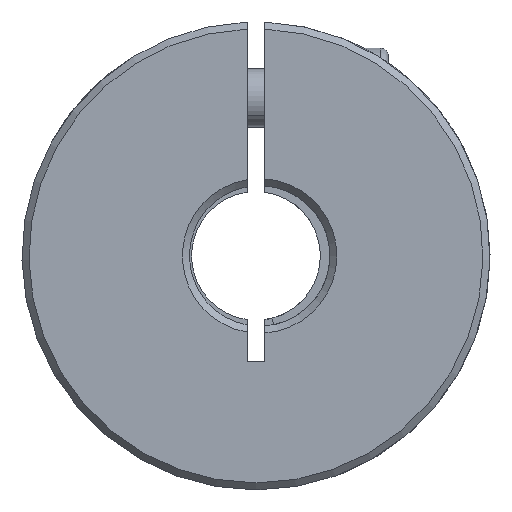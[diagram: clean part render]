
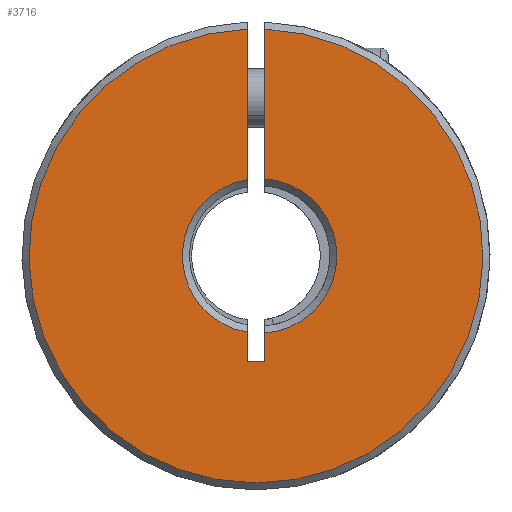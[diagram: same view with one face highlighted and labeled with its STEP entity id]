
A CAD part, front view. The second image highlights one B-rep face of the part: STEP entity #3716.
In plain terms, the highlighted planar face has unit normal (0, -1, 0).
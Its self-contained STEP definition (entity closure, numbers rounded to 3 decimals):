
#205 = EDGE_CURVE ( 'NONE', #266, #4046, #4263, .T. ) ;
#257 = EDGE_CURVE ( 'NONE', #1948, #3038, #2669, .T. ) ;
#266 = VERTEX_POINT ( 'NONE', #2311 ) ;
#382 = ORIENTED_EDGE ( 'NONE', *, *, #2302, .T. ) ;
#412 = LINE ( 'NONE', #501, #2597 ) ;
#415 = DIRECTION ( 'NONE',  ( 0., 0., 1. ) ) ;
#501 = CARTESIAN_POINT ( 'NONE',  ( -0.75, -30., -9. ) ) ;
#590 = FACE_OUTER_BOUND ( 'NONE', #5667, .T. ) ;
#785 = VECTOR ( 'NONE', #1417, 1000. ) ;
#815 = CARTESIAN_POINT ( 'NONE',  ( -0.75, -30., -9. ) ) ;
#845 = LINE ( 'NONE', #3131, #4759 ) ;
#874 = DIRECTION ( 'NONE',  ( 0., 1., 0. ) ) ;
#883 = CARTESIAN_POINT ( 'NONE',  ( 0.314, -30., 0. ) ) ;
#898 = DIRECTION ( 'NONE',  ( 0., 0., 1. ) ) ;
#951 = CARTESIAN_POINT ( 'NONE',  ( 0.75, -30., 6.586 ) ) ;
#1417 = DIRECTION ( 'NONE',  ( 0., 0., -1. ) ) ;
#1510 = VECTOR ( 'NONE', #1714, 1000. ) ;
#1591 = VERTEX_POINT ( 'NONE', #3938 ) ;
#1714 = DIRECTION ( 'NONE',  ( 0., 0., 1. ) ) ;
#1717 = AXIS2_PLACEMENT_3D ( 'NONE', #883, #1729, #1786 ) ;
#1729 = DIRECTION ( 'NONE',  ( 0., 1., 0. ) ) ;
#1786 = DIRECTION ( 'NONE',  ( 0., 0., 1. ) ) ;
#1806 = CARTESIAN_POINT ( 'NONE',  ( 0.75, -30., -9. ) ) ;
#1830 = CARTESIAN_POINT ( 'NONE',  ( 0., -30., 0. ) ) ;
#1948 = VERTEX_POINT ( 'NONE', #4486 ) ;
#2055 = DIRECTION ( 'NONE',  ( 0., 0., 1. ) ) ;
#2198 = AXIS2_PLACEMENT_3D ( 'NONE', #5791, #4334, #2055 ) ;
#2261 = EDGE_CURVE ( 'NONE', #3038, #4646, #2382, .T. ) ;
#2302 = EDGE_CURVE ( 'NONE', #1591, #2853, #3784, .T. ) ;
#2311 = CARTESIAN_POINT ( 'NONE',  ( -0.75, -30., -6.514 ) ) ;
#2326 = ORIENTED_EDGE ( 'NONE', *, *, #2448, .T. ) ;
#2353 = CARTESIAN_POINT ( 'NONE',  ( 0.75, -30., -9. ) ) ;
#2371 = ORIENTED_EDGE ( 'NONE', *, *, #2261, .T. ) ;
#2382 = LINE ( 'NONE', #2353, #4405 ) ;
#2448 = EDGE_CURVE ( 'NONE', #4646, #1591, #5143, .T. ) ;
#2597 = VECTOR ( 'NONE', #4126, 1000. ) ;
#2669 = CIRCLE ( 'NONE', #3463, 19.4 ) ;
#2853 = VERTEX_POINT ( 'NONE', #1806 ) ;
#3038 = VERTEX_POINT ( 'NONE', #3460 ) ;
#3131 = CARTESIAN_POINT ( 'NONE',  ( -0.75, -30., -9. ) ) ;
#3229 = EDGE_CURVE ( 'NONE', #5857, #266, #3649, .T. ) ;
#3248 = CARTESIAN_POINT ( 'NONE',  ( 0.314, -30., 0. ) ) ;
#3460 = CARTESIAN_POINT ( 'NONE',  ( 0.75, -30., 19.385 ) ) ;
#3463 = AXIS2_PLACEMENT_3D ( 'NONE', #1830, #4643, #415 ) ;
#3599 = DIRECTION ( 'NONE',  ( 0., 0., 1. ) ) ;
#3626 = ORIENTED_EDGE ( 'NONE', *, *, #3229, .T. ) ;
#3649 = LINE ( 'NONE', #815, #1510 ) ;
#3716 = ADVANCED_FACE ( 'NONE', ( #590 ), #4892, .F. ) ;
#3784 = LINE ( 'NONE', #5615, #785 ) ;
#3814 = ORIENTED_EDGE ( 'NONE', *, *, #205, .T. ) ;
#3856 = CARTESIAN_POINT ( 'NONE',  ( -0.75, -30., -9. ) ) ;
#3938 = CARTESIAN_POINT ( 'NONE',  ( 0.75, -30., -6.586 ) ) ;
#4035 = ORIENTED_EDGE ( 'NONE', *, *, #4241, .T. ) ;
#4046 = VERTEX_POINT ( 'NONE', #5818 ) ;
#4070 = ORIENTED_EDGE ( 'NONE', *, *, #257, .T. ) ;
#4126 = DIRECTION ( 'NONE',  ( -1., 0., 0. ) ) ;
#4241 = EDGE_CURVE ( 'NONE', #4046, #1948, #845, .T. ) ;
#4263 = CIRCLE ( 'NONE', #5043, 6.6 ) ;
#4334 = DIRECTION ( 'NONE',  ( 0., 1., 0. ) ) ;
#4355 = DIRECTION ( 'NONE',  ( 0., 0., -1. ) ) ;
#4405 = VECTOR ( 'NONE', #4355, 1000. ) ;
#4486 = CARTESIAN_POINT ( 'NONE',  ( -0.75, -30., 19.385 ) ) ;
#4629 = EDGE_CURVE ( 'NONE', #2853, #5857, #412, .T. ) ;
#4643 = DIRECTION ( 'NONE',  ( 0., -1., 0. ) ) ;
#4646 = VERTEX_POINT ( 'NONE', #951 ) ;
#4759 = VECTOR ( 'NONE', #3599, 1000. ) ;
#4892 = PLANE ( 'NONE',  #2198 ) ;
#4976 = ORIENTED_EDGE ( 'NONE', *, *, #4629, .T. ) ;
#5043 = AXIS2_PLACEMENT_3D ( 'NONE', #3248, #874, #898 ) ;
#5143 = CIRCLE ( 'NONE', #1717, 6.6 ) ;
#5615 = CARTESIAN_POINT ( 'NONE',  ( 0.75, -30., -9. ) ) ;
#5667 = EDGE_LOOP ( 'NONE', ( #2371, #2326, #382, #4976, #3626, #3814, #4035, #4070 ) ) ;
#5791 = CARTESIAN_POINT ( 'NONE',  ( 0., -30., 0. ) ) ;
#5818 = CARTESIAN_POINT ( 'NONE',  ( -0.75, -30., 6.514 ) ) ;
#5857 = VERTEX_POINT ( 'NONE', #3856 ) ;
